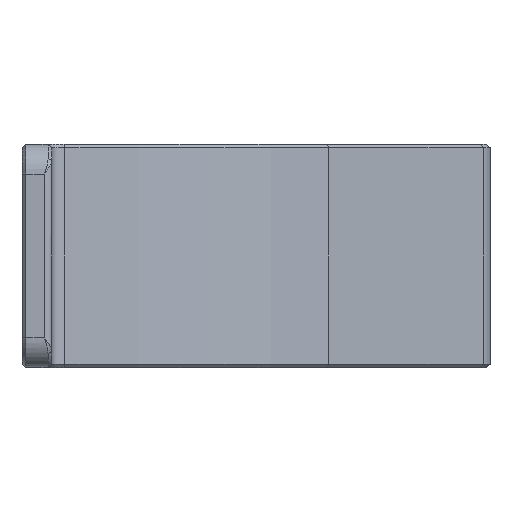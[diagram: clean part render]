
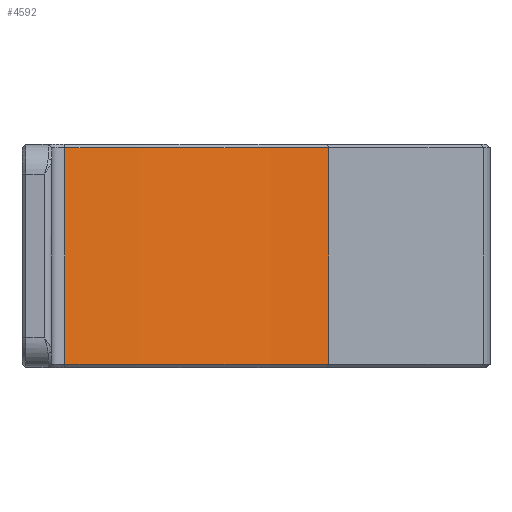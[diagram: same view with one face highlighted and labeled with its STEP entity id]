
A CAD part, left-side view. The second image highlights one B-rep face of the part: STEP entity #4592.
In plain terms, the highlighted cylindrical face has radius 62.74 mm (diameter 125.48 mm), a partial arc.
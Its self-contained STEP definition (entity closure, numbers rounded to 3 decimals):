
#2133 = CIRCLE ( 'NONE', #25638, 62.74 ) ;
#2951 = DIRECTION ( 'NONE',  ( -1., 0., 0. ) ) ;
#3143 = EDGE_CURVE ( 'NONE', #30309, #17672, #28114, .T. ) ;
#4592 = ADVANCED_FACE ( 'NONE', ( #41713 ), #16524, .T. ) ;
#7473 = DIRECTION ( 'NONE',  ( 0., 0., -1. ) ) ;
#8677 = DIRECTION ( 'NONE',  ( 0., 0., -1. ) ) ;
#11489 = CARTESIAN_POINT ( 'NONE',  ( -45.51, -43.188, 15. ) ) ;
#12923 = DIRECTION ( 'NONE',  ( 1., 0., 0. ) ) ;
#16524 = CYLINDRICAL_SURFACE ( 'NONE', #42426, 62.74 ) ;
#16858 = LINE ( 'NONE', #11489, #38772 ) ;
#17672 = VERTEX_POINT ( 'NONE', #39282 ) ;
#17752 = ORIENTED_EDGE ( 'NONE', *, *, #33361, .T. ) ;
#18761 = EDGE_CURVE ( 'NONE', #38474, #30309, #2133, .T. ) ;
#19589 = DIRECTION ( 'NONE',  ( 0., 0., -1. ) ) ;
#19988 = DIRECTION ( 'NONE',  ( 0., 0., -1. ) ) ;
#25638 = AXIS2_PLACEMENT_3D ( 'NONE', #26517, #8677, #12923 ) ;
#26203 = CARTESIAN_POINT ( 'NONE',  ( -45.51, -43.188, 14.5 ) ) ;
#26517 = CARTESIAN_POINT ( 'NONE',  ( 0., 0., 14.5 ) ) ;
#27318 = DIRECTION ( 'NONE',  ( 1., 0., 0. ) ) ;
#28114 = LINE ( 'NONE', #41087, #55983 ) ;
#28872 = ORIENTED_EDGE ( 'NONE', *, *, #18761, .T. ) ;
#30309 = VERTEX_POINT ( 'NONE', #46391 ) ;
#30754 = CARTESIAN_POINT ( 'NONE',  ( 0., 0., -14.5 ) ) ;
#31839 = DIRECTION ( 'NONE',  ( 0., 0., 1. ) ) ;
#33246 = CARTESIAN_POINT ( 'NONE',  ( 0., 0., 15. ) ) ;
#33361 = EDGE_CURVE ( 'NONE', #17672, #39899, #54918, .T. ) ;
#36666 = EDGE_LOOP ( 'NONE', ( #54709, #28872, #44061, #17752 ) ) ;
#38474 = VERTEX_POINT ( 'NONE', #26203 ) ;
#38772 = VECTOR ( 'NONE', #19988, 1000. ) ;
#39282 = CARTESIAN_POINT ( 'NONE',  ( -62.259, -7.753, -14.5 ) ) ;
#39899 = VERTEX_POINT ( 'NONE', #52237 ) ;
#41087 = CARTESIAN_POINT ( 'NONE',  ( -62.259, -7.753, 15. ) ) ;
#41713 = FACE_OUTER_BOUND ( 'NONE', #36666, .T. ) ;
#42426 = AXIS2_PLACEMENT_3D ( 'NONE', #33246, #7473, #2951 ) ;
#43622 = EDGE_CURVE ( 'NONE', #38474, #39899, #16858, .T. ) ;
#44027 = AXIS2_PLACEMENT_3D ( 'NONE', #30754, #31839, #27318 ) ;
#44061 = ORIENTED_EDGE ( 'NONE', *, *, #3143, .T. ) ;
#46391 = CARTESIAN_POINT ( 'NONE',  ( -62.259, -7.753, 14.5 ) ) ;
#52237 = CARTESIAN_POINT ( 'NONE',  ( -45.51, -43.188, -14.5 ) ) ;
#54709 = ORIENTED_EDGE ( 'NONE', *, *, #43622, .F. ) ;
#54918 = CIRCLE ( 'NONE', #44027, 62.74 ) ;
#55983 = VECTOR ( 'NONE', #19589, 1000. ) ;
